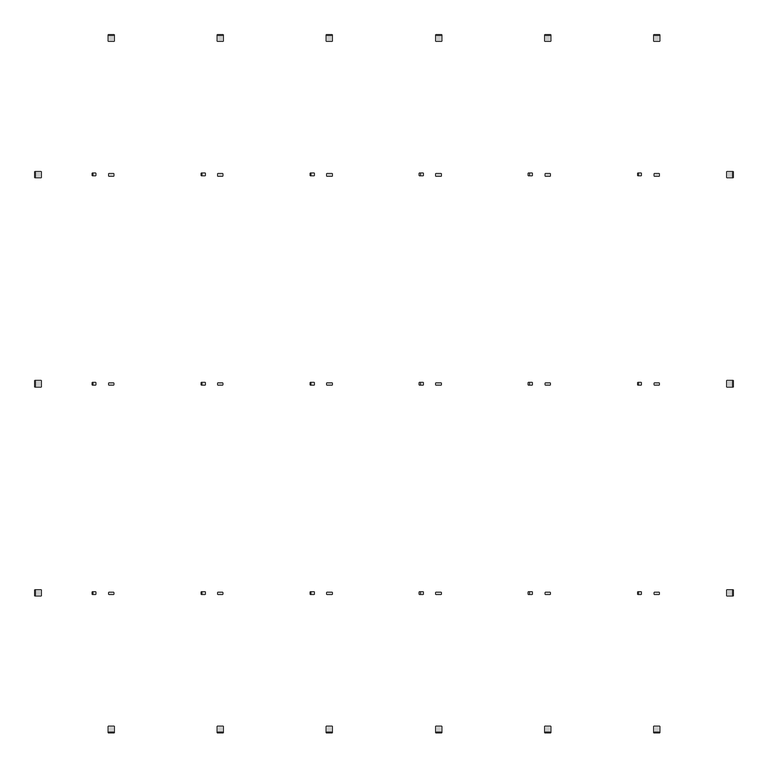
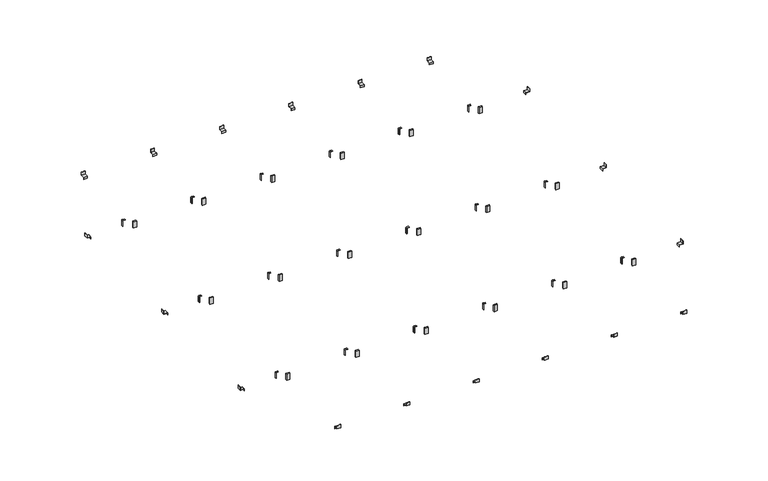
"""IFC4 building model written with IfcOpenShell, lengths in millimetres: proxy geometry, durlum_S1 : durlum_S1_625x625."""

from ifc_helpers import new_model, si_unit, point, frame, frame_2d, origin, place, context, project, spatial, polyline, circle_curve, trimmed, segment, composite_curve, outline, extrude, source, transform, mapped, element, save


def generic_models_e5a4eb21(model_context):
    return source(origin(), model_context, "Body", "SweptSolid", [
        extrude(outline(polyline([(2000.0, 2046.0), (1966.0, 2046.0), (1966.0, 2028.0), (1965.0, 2028.0), (1965.0, 2047.0), (1999.0, 2047.0), (1999.0, 2075.0), (2000.0, 2075.0), (2000.0, 2046.0)])), frame((920.1800527, 0.0, 0.0), z_axis=(1.0, 0.0, 0.0), x_axis=(0.0, 1.0, 0.0)), (0.0, 0.0, 1.0), 34.6398947),
        extrude(outline(polyline([(2000.0, 2046.0), (1966.0, 2046.0), (1966.0, 2028.0), (1965.0, 2028.0), (1965.0, 2047.0), (1999.0, 2047.0), (1999.0, 2075.0), (2000.0, 2075.0), (2000.0, 2046.0)])), frame((295.1800527, 0.0, 0.0), z_axis=(1.0, 0.0, 0.0), x_axis=(0.0, 1.0, 0.0)), (0.0, 0.0, 1.0), 34.6398947),
        extrude(outline(polyline([(-2000.0, 2046.0), (-2000.0, 2075.0), (-1999.0, 2075.0), (-1999.0, 2047.0), (-1965.0, 2047.0), (-1965.0, 2028.0), (-1966.0, 2028.0), (-1966.0, 2046.0), (-2000.0, 2046.0)])), frame((920.1800527, 0.0, 0.0), z_axis=(1.0, 0.0, 0.0), x_axis=(0.0, 1.0, 0.0)), (0.0, 0.0, 1.0), 34.6398947),
        extrude(outline(polyline([(-2000.0, 2046.0), (-2000.0, 2075.0), (-1999.0, 2075.0), (-1999.0, 2047.0), (-1965.0, 2047.0), (-1965.0, 2028.0), (-1966.0, 2028.0), (-1966.0, 2046.0), (-2000.0, 2046.0)])), frame((295.1800527, 0.0, 0.0), z_axis=(1.0, 0.0, 0.0), x_axis=(0.0, 1.0, 0.0)), (0.0, 0.0, 1.0), 34.6398947),
        extrude(outline(polyline([(952.5, 3.6253613), (952.5, -8.4811477), (922.5, -8.4811477), (922.5, 3.6253613), (952.5, 3.6253613)])), frame((0.0, 0.0, 2028.8069112), z_axis=(0.0, 0.0, 1.0), x_axis=(1.0, 0.0, 0.0)), (0.0, 0.0, 1.0), 59.2290353),
        extrude(outline(polyline([(327.5, 3.6253613), (327.5, -8.4811477), (297.5, -8.4811477), (297.5, 3.6253613), (327.5, 3.6253613)])), frame((0.0, 0.0, 2028.8069112), z_axis=(0.0, 0.0, 1.0), x_axis=(1.0, 0.0, 0.0)), (0.0, 0.0, 1.0), 59.2290353),
        extrude(outline(polyline([(-297.5, 3.6253613), (-297.5, -8.4811477), (-327.5, -8.4811477), (-327.5, 3.6253613), (-297.5, 3.6253613)])), frame((0.0, 0.0, 2028.8069112), z_axis=(0.0, 0.0, 1.0), x_axis=(1.0, 0.0, 0.0)), (0.0, 0.0, 1.0), 59.2290353),
        extrude(outline(polyline([(-922.5, 3.6253613), (-922.5, -8.4811477), (-952.5, -8.4811477), (-952.5, 3.6253613), (-922.5, 3.6253613)])), frame((0.0, 0.0, 2028.8069112), z_axis=(0.0, 0.0, 1.0), x_axis=(1.0, 0.0, 0.0)), (0.0, 0.0, 1.0), 59.2290353),
        extrude(outline(polyline([(1577.5, 3.6253613), (1577.5, -8.4811477), (1547.5, -8.4811477), (1547.5, 3.6253613), (1577.5, 3.6253613)])), frame((0.0, 0.0, 2028.8069112), z_axis=(0.0, 0.0, 1.0), x_axis=(1.0, 0.0, 0.0)), (0.0, 0.0, 1.0), 59.2290353),
        extrude(outline(polyline([(-1547.5, 3.6253613), (-1547.5, -8.4811477), (-1577.5, -8.4811477), (-1577.5, 3.6253613), (-1547.5, 3.6253613)])), frame((0.0, 0.0, 2028.8069112), z_axis=(0.0, 0.0, 1.0), x_axis=(1.0, 0.0, 0.0)), (0.0, 0.0, 1.0), 59.2290353),
        extrude(outline(composite_curve([segment(polyline([(2131.0, -1047.5), (2079.0, -1047.5), (2079.0, -1045.5294653), (2131.0321248, -1045.5294653)]), True, "CONTINUOUS"), segment(trimmed(circle_curve(frame_2d((2131.0321248, -1043.5294653)), 2.0), [point((2131.0321248, -1045.5294653))], [point((2133.0321248, -1043.5294653))], True, "CARTESIAN"), True, "CONTINUOUS"), segment(polyline([(2133.0321248, -1043.5294653), (2133.0321248, -1025.3), (2135.0, -1025.3), (2135.0, -1043.5)]), True, "CONTINUOUS"), segment(trimmed(circle_curve(frame_2d((2131.0, -1043.5)), 4.0), [point((2135.0, -1043.5))], [point((2131.0, -1047.5))], False, "CARTESIAN"), True, "CONTINUOUS")], self_intersect=False)), frame((0.0, -7.0, 0.0), z_axis=(0.0, 1.0, 0.0), x_axis=(0.0, 0.0, 1.0)), (0.0, 0.0, 1.0), 14.0),
        extrude(outline(composite_curve([segment(polyline([(2131.0, -422.5), (2079.0, -422.5), (2079.0, -420.5294653), (2131.0321248, -420.5294653)]), True, "CONTINUOUS"), segment(trimmed(circle_curve(frame_2d((2131.0321248, -418.5294653)), 2.0), [point((2131.0321248, -420.5294653))], [point((2133.0321248, -418.5294653))], True, "CARTESIAN"), True, "CONTINUOUS"), segment(polyline([(2133.0321248, -418.5294653), (2133.0321248, -400.3), (2135.0, -400.3), (2135.0, -418.5)]), True, "CONTINUOUS"), segment(trimmed(circle_curve(frame_2d((2131.0, -418.5)), 4.0), [point((2135.0, -418.5))], [point((2131.0, -422.5))], False, "CARTESIAN"), True, "CONTINUOUS")], self_intersect=False)), frame((0.0, -7.0, 0.0), z_axis=(0.0, 1.0, 0.0), x_axis=(0.0, 0.0, 1.0)), (0.0, 0.0, 1.0), 14.0),
        extrude(outline(composite_curve([segment(polyline([(2131.0, 202.5), (2079.0, 202.5), (2079.0, 204.4705347), (2131.0321248, 204.4705347)]), True, "CONTINUOUS"), segment(trimmed(circle_curve(frame_2d((2131.0321248, 206.4705347)), 2.0), [point((2131.0321248, 204.4705347))], [point((2133.0321248, 206.4705347))], True, "CARTESIAN"), True, "CONTINUOUS"), segment(polyline([(2133.0321248, 206.4705347), (2133.0321248, 224.7), (2135.0, 224.7), (2135.0, 206.5)]), True, "CONTINUOUS"), segment(trimmed(circle_curve(frame_2d((2131.0, 206.5)), 4.0), [point((2135.0, 206.5))], [point((2131.0, 202.5))], False, "CARTESIAN"), True, "CONTINUOUS")], self_intersect=False)), frame((0.0, -7.0, 0.0), z_axis=(0.0, 1.0, 0.0), x_axis=(0.0, 0.0, 1.0)), (0.0, 0.0, 1.0), 14.0),
        extrude(outline(composite_curve([segment(polyline([(2131.0, 827.5), (2079.0, 827.5), (2079.0, 829.4705347), (2131.0321248, 829.4705347)]), True, "CONTINUOUS"), segment(trimmed(circle_curve(frame_2d((2131.0321248, 831.4705347)), 2.0), [point((2131.0321248, 829.4705347))], [point((2133.0321248, 831.4705347))], True, "CARTESIAN"), True, "CONTINUOUS"), segment(polyline([(2133.0321248, 831.4705347), (2133.0321248, 849.7), (2135.0, 849.7), (2135.0, 831.5)]), True, "CONTINUOUS"), segment(trimmed(circle_curve(frame_2d((2131.0, 831.5)), 4.0), [point((2135.0, 831.5))], [point((2131.0, 827.5))], False, "CARTESIAN"), True, "CONTINUOUS")], self_intersect=False)), frame((0.0, -7.0, 0.0), z_axis=(0.0, 1.0, 0.0), x_axis=(0.0, 0.0, 1.0)), (0.0, 0.0, 1.0), 14.0),
        extrude(outline(composite_curve([segment(polyline([(2131.0, -1672.5), (2079.0, -1672.5), (2079.0, -1670.5294653), (2131.0321248, -1670.5294653)]), True, "CONTINUOUS"), segment(trimmed(circle_curve(frame_2d((2131.0321248, -1668.5294653)), 2.0), [point((2131.0321248, -1670.5294653))], [point((2133.0321248, -1668.5294653))], True, "CARTESIAN"), True, "CONTINUOUS"), segment(polyline([(2133.0321248, -1668.5294653), (2133.0321248, -1650.3), (2135.0, -1650.3), (2135.0, -1668.5)]), True, "CONTINUOUS"), segment(trimmed(circle_curve(frame_2d((2131.0, -1668.5)), 4.0), [point((2135.0, -1668.5))], [point((2131.0, -1672.5))], False, "CARTESIAN"), True, "CONTINUOUS")], self_intersect=False)), frame((0.0, -7.0, 0.0), z_axis=(0.0, 1.0, 0.0), x_axis=(0.0, 0.0, 1.0)), (0.0, 0.0, 1.0), 14.0),
        extrude(outline(composite_curve([segment(polyline([(2131.0, 1452.5), (2079.0, 1452.5), (2079.0, 1454.4705347), (2131.0321248, 1454.4705347)]), True, "CONTINUOUS"), segment(trimmed(circle_curve(frame_2d((2131.0321248, 1456.4705347)), 2.0), [point((2131.0321248, 1454.4705347))], [point((2133.0321248, 1456.4705347))], True, "CARTESIAN"), True, "CONTINUOUS"), segment(polyline([(2133.0321248, 1456.4705347), (2133.0321248, 1474.7), (2135.0, 1474.7), (2135.0, 1456.5)]), True, "CONTINUOUS"), segment(trimmed(circle_curve(frame_2d((2131.0, 1456.5)), 4.0), [point((2135.0, 1456.5))], [point((2131.0, 1452.5))], False, "CARTESIAN"), True, "CONTINUOUS")], self_intersect=False)), frame((0.0, -7.0, 0.0), z_axis=(0.0, 1.0, 0.0), x_axis=(0.0, 0.0, 1.0)), (0.0, 0.0, 1.0), 14.0),
        extrude(outline(polyline([(2087.0, 2000.0), (2116.0, 2000.0), (2116.0, 1999.0), (2088.0, 1999.0), (2088.0, 1965.0), (2069.0, 1965.0), (2069.0, 1966.0), (2087.0, 1966.0), (2087.0, 2000.0)])), frame((0.0, -17.3199473, 0.0), z_axis=(0.0, 1.0, 0.0), x_axis=(0.0, 0.0, 1.0)), (0.0, 0.0, 1.0), 34.6398947),
        extrude(outline(polyline([(2087.0, -2000.0), (2087.0, -1966.0), (2069.0, -1966.0), (2069.0, -1965.0), (2088.0, -1965.0), (2088.0, -1999.0), (2116.0, -1999.0), (2116.0, -2000.0), (2087.0, -2000.0)])), frame((0.0, -17.3199473, 0.0), z_axis=(0.0, 1.0, 0.0), x_axis=(0.0, 0.0, 1.0)), (0.0, 0.0, 1.0), 34.6398947),
        extrude(outline(polyline([(-2000.0, 2046.0), (-2000.0, 2075.0), (-1999.0, 2075.0), (-1999.0, 2047.0), (-1965.0, 2047.0), (-1965.0, 2028.0), (-1966.0, 2028.0), (-1966.0, 2046.0), (-2000.0, 2046.0)])), frame((-329.8199473, 0.0, 0.0), z_axis=(1.0, 0.0, 0.0), x_axis=(0.0, 1.0, 0.0)), (0.0, 0.0, 1.0), 34.6398947),
        extrude(outline(polyline([(-2000.0, 2046.0), (-2000.0, 2075.0), (-1999.0, 2075.0), (-1999.0, 2047.0), (-1965.0, 2047.0), (-1965.0, 2028.0), (-1966.0, 2028.0), (-1966.0, 2046.0), (-2000.0, 2046.0)])), frame((-954.8199473, 0.0, 0.0), z_axis=(1.0, 0.0, 0.0), x_axis=(0.0, 1.0, 0.0)), (0.0, 0.0, 1.0), 34.6398947),
        extrude(outline(polyline([(2000.0, 2046.0), (1966.0, 2046.0), (1966.0, 2028.0), (1965.0, 2028.0), (1965.0, 2047.0), (1999.0, 2047.0), (1999.0, 2075.0), (2000.0, 2075.0), (2000.0, 2046.0)])), frame((-329.8199473, 0.0, 0.0), z_axis=(1.0, 0.0, 0.0), x_axis=(0.0, 1.0, 0.0)), (0.0, 0.0, 1.0), 34.6398947),
        extrude(outline(polyline([(2000.0, 2046.0), (1966.0, 2046.0), (1966.0, 2028.0), (1965.0, 2028.0), (1965.0, 2047.0), (1999.0, 2047.0), (1999.0, 2075.0), (2000.0, 2075.0), (2000.0, 2046.0)])), frame((-954.8199473, 0.0, 0.0), z_axis=(1.0, 0.0, 0.0), x_axis=(0.0, 1.0, 0.0)), (0.0, 0.0, 1.0), 34.6398947),
        extrude(outline(polyline([(2000.0, 2046.0), (1966.0, 2046.0), (1966.0, 2028.0), (1965.0, 2028.0), (1965.0, 2047.0), (1999.0, 2047.0), (1999.0, 2075.0), (2000.0, 2075.0), (2000.0, 2046.0)])), frame((1545.1800527, 0.0, 0.0), z_axis=(1.0, 0.0, 0.0), x_axis=(0.0, 1.0, 0.0)), (0.0, 0.0, 1.0), 34.6398947),
        extrude(outline(polyline([(-2000.0, 2046.0), (-2000.0, 2075.0), (-1999.0, 2075.0), (-1999.0, 2047.0), (-1965.0, 2047.0), (-1965.0, 2028.0), (-1966.0, 2028.0), (-1966.0, 2046.0), (-2000.0, 2046.0)])), frame((1545.1800527, 0.0, 0.0), z_axis=(1.0, 0.0, 0.0), x_axis=(0.0, 1.0, 0.0)), (0.0, 0.0, 1.0), 34.6398947),
        extrude(outline(polyline([(-2000.0, 2046.0), (-2000.0, 2075.0), (-1999.0, 2075.0), (-1999.0, 2047.0), (-1965.0, 2047.0), (-1965.0, 2028.0), (-1966.0, 2028.0), (-1966.0, 2046.0), (-2000.0, 2046.0)])), frame((-1579.8199473, 0.0, 0.0), z_axis=(1.0, 0.0, 0.0), x_axis=(0.0, 1.0, 0.0)), (0.0, 0.0, 1.0), 34.6398947),
        extrude(outline(polyline([(2000.0, 2046.0), (1966.0, 2046.0), (1966.0, 2028.0), (1965.0, 2028.0), (1965.0, 2047.0), (1999.0, 2047.0), (1999.0, 2075.0), (2000.0, 2075.0), (2000.0, 2046.0)])), frame((-1579.8199473, 0.0, 0.0), z_axis=(1.0, 0.0, 0.0), x_axis=(0.0, 1.0, 0.0)), (0.0, 0.0, 1.0), 34.6398947),
        extrude(outline(polyline([(952.5, -1196.3746387), (952.5, -1208.4811477), (922.5, -1208.4811477), (922.5, -1196.3746387), (952.5, -1196.3746387)])), frame((0.0, 0.0, 2028.8069112), z_axis=(0.0, 0.0, 1.0), x_axis=(1.0, 0.0, 0.0)), (0.0, 0.0, 1.0), 59.2290353),
        extrude(outline(polyline([(327.5, -1196.3746387), (327.5, -1208.4811477), (297.5, -1208.4811477), (297.5, -1196.3746387), (327.5, -1196.3746387)])), frame((0.0, 0.0, 2028.8069112), z_axis=(0.0, 0.0, 1.0), x_axis=(1.0, 0.0, 0.0)), (0.0, 0.0, 1.0), 59.2290353),
        extrude(outline(polyline([(-297.5, -1196.3746387), (-297.5, -1208.4811477), (-327.5, -1208.4811477), (-327.5, -1196.3746387), (-297.5, -1196.3746387)])), frame((0.0, 0.0, 2028.8069112), z_axis=(0.0, 0.0, 1.0), x_axis=(1.0, 0.0, 0.0)), (0.0, 0.0, 1.0), 59.2290353),
        extrude(outline(polyline([(-922.5, -1196.3746387), (-922.5, -1208.4811477), (-952.5, -1208.4811477), (-952.5, -1196.3746387), (-922.5, -1196.3746387)])), frame((0.0, 0.0, 2028.8069112), z_axis=(0.0, 0.0, 1.0), x_axis=(1.0, 0.0, 0.0)), (0.0, 0.0, 1.0), 59.2290353),
        extrude(outline(polyline([(1577.5, -1196.3746387), (1577.5, -1208.4811477), (1547.5, -1208.4811477), (1547.5, -1196.3746387), (1577.5, -1196.3746387)])), frame((0.0, 0.0, 2028.8069112), z_axis=(0.0, 0.0, 1.0), x_axis=(1.0, 0.0, 0.0)), (0.0, 0.0, 1.0), 59.2290353),
        extrude(outline(polyline([(-1547.5, -1196.3746387), (-1547.5, -1208.4811477), (-1577.5, -1208.4811477), (-1577.5, -1196.3746387), (-1547.5, -1196.3746387)])), frame((0.0, 0.0, 2028.8069112), z_axis=(0.0, 0.0, 1.0), x_axis=(1.0, 0.0, 0.0)), (0.0, 0.0, 1.0), 59.2290353),
        extrude(outline(composite_curve([segment(polyline([(2131.0, -1047.5), (2079.0, -1047.5), (2079.0, -1045.5294653), (2131.0321248, -1045.5294653)]), True, "CONTINUOUS"), segment(trimmed(circle_curve(frame_2d((2131.0321248, -1043.5294653)), 2.0), [point((2131.0321248, -1045.5294653))], [point((2133.0321248, -1043.5294653))], True, "CARTESIAN"), True, "CONTINUOUS"), segment(polyline([(2133.0321248, -1043.5294653), (2133.0321248, -1025.3), (2135.0, -1025.3), (2135.0, -1043.5)]), True, "CONTINUOUS"), segment(trimmed(circle_curve(frame_2d((2131.0, -1043.5)), 4.0), [point((2135.0, -1043.5))], [point((2131.0, -1047.5))], False, "CARTESIAN"), True, "CONTINUOUS")], self_intersect=False)), frame((0.0, -1207.0, 0.0), z_axis=(0.0, 1.0, 0.0), x_axis=(0.0, 0.0, 1.0)), (0.0, 0.0, 1.0), 14.0),
        extrude(outline(composite_curve([segment(polyline([(2131.0, -422.5), (2079.0, -422.5), (2079.0, -420.5294653), (2131.0321248, -420.5294653)]), True, "CONTINUOUS"), segment(trimmed(circle_curve(frame_2d((2131.0321248, -418.5294653)), 2.0), [point((2131.0321248, -420.5294653))], [point((2133.0321248, -418.5294653))], True, "CARTESIAN"), True, "CONTINUOUS"), segment(polyline([(2133.0321248, -418.5294653), (2133.0321248, -400.3), (2135.0, -400.3), (2135.0, -418.5)]), True, "CONTINUOUS"), segment(trimmed(circle_curve(frame_2d((2131.0, -418.5)), 4.0), [point((2135.0, -418.5))], [point((2131.0, -422.5))], False, "CARTESIAN"), True, "CONTINUOUS")], self_intersect=False)), frame((0.0, -1207.0, 0.0), z_axis=(0.0, 1.0, 0.0), x_axis=(0.0, 0.0, 1.0)), (0.0, 0.0, 1.0), 14.0),
        extrude(outline(composite_curve([segment(polyline([(2131.0, 202.5), (2079.0, 202.5), (2079.0, 204.4705347), (2131.0321248, 204.4705347)]), True, "CONTINUOUS"), segment(trimmed(circle_curve(frame_2d((2131.0321248, 206.4705347)), 2.0), [point((2131.0321248, 204.4705347))], [point((2133.0321248, 206.4705347))], True, "CARTESIAN"), True, "CONTINUOUS"), segment(polyline([(2133.0321248, 206.4705347), (2133.0321248, 224.7), (2135.0, 224.7), (2135.0, 206.5)]), True, "CONTINUOUS"), segment(trimmed(circle_curve(frame_2d((2131.0, 206.5)), 4.0), [point((2135.0, 206.5))], [point((2131.0, 202.5))], False, "CARTESIAN"), True, "CONTINUOUS")], self_intersect=False)), frame((0.0, -1207.0, 0.0), z_axis=(0.0, 1.0, 0.0), x_axis=(0.0, 0.0, 1.0)), (0.0, 0.0, 1.0), 14.0),
        extrude(outline(composite_curve([segment(polyline([(2131.0, 827.5), (2079.0, 827.5), (2079.0, 829.4705347), (2131.0321248, 829.4705347)]), True, "CONTINUOUS"), segment(trimmed(circle_curve(frame_2d((2131.0321248, 831.4705347)), 2.0), [point((2131.0321248, 829.4705347))], [point((2133.0321248, 831.4705347))], True, "CARTESIAN"), True, "CONTINUOUS"), segment(polyline([(2133.0321248, 831.4705347), (2133.0321248, 849.7), (2135.0, 849.7), (2135.0, 831.5)]), True, "CONTINUOUS"), segment(trimmed(circle_curve(frame_2d((2131.0, 831.5)), 4.0), [point((2135.0, 831.5))], [point((2131.0, 827.5))], False, "CARTESIAN"), True, "CONTINUOUS")], self_intersect=False)), frame((0.0, -1207.0, 0.0), z_axis=(0.0, 1.0, 0.0), x_axis=(0.0, 0.0, 1.0)), (0.0, 0.0, 1.0), 14.0),
        extrude(outline(composite_curve([segment(polyline([(2131.0, -1672.5), (2079.0, -1672.5), (2079.0, -1670.5294653), (2131.0321248, -1670.5294653)]), True, "CONTINUOUS"), segment(trimmed(circle_curve(frame_2d((2131.0321248, -1668.5294653)), 2.0), [point((2131.0321248, -1670.5294653))], [point((2133.0321248, -1668.5294653))], True, "CARTESIAN"), True, "CONTINUOUS"), segment(polyline([(2133.0321248, -1668.5294653), (2133.0321248, -1650.3), (2135.0, -1650.3), (2135.0, -1668.5)]), True, "CONTINUOUS"), segment(trimmed(circle_curve(frame_2d((2131.0, -1668.5)), 4.0), [point((2135.0, -1668.5))], [point((2131.0, -1672.5))], False, "CARTESIAN"), True, "CONTINUOUS")], self_intersect=False)), frame((0.0, -1207.0, 0.0), z_axis=(0.0, 1.0, 0.0), x_axis=(0.0, 0.0, 1.0)), (0.0, 0.0, 1.0), 14.0),
        extrude(outline(composite_curve([segment(polyline([(2131.0, 1452.5), (2079.0, 1452.5), (2079.0, 1454.4705347), (2131.0321248, 1454.4705347)]), True, "CONTINUOUS"), segment(trimmed(circle_curve(frame_2d((2131.0321248, 1456.4705347)), 2.0), [point((2131.0321248, 1454.4705347))], [point((2133.0321248, 1456.4705347))], True, "CARTESIAN"), True, "CONTINUOUS"), segment(polyline([(2133.0321248, 1456.4705347), (2133.0321248, 1474.7), (2135.0, 1474.7), (2135.0, 1456.5)]), True, "CONTINUOUS"), segment(trimmed(circle_curve(frame_2d((2131.0, 1456.5)), 4.0), [point((2135.0, 1456.5))], [point((2131.0, 1452.5))], False, "CARTESIAN"), True, "CONTINUOUS")], self_intersect=False)), frame((0.0, -1207.0, 0.0), z_axis=(0.0, 1.0, 0.0), x_axis=(0.0, 0.0, 1.0)), (0.0, 0.0, 1.0), 14.0),
        extrude(outline(polyline([(2087.0, 2000.0), (2116.0, 2000.0), (2116.0, 1999.0), (2088.0, 1999.0), (2088.0, 1965.0), (2069.0, 1965.0), (2069.0, 1966.0), (2087.0, 1966.0), (2087.0, 2000.0)])), frame((0.0, -1217.3199473, 0.0), z_axis=(0.0, 1.0, 0.0), x_axis=(0.0, 0.0, 1.0)), (0.0, 0.0, 1.0), 34.6398947),
        extrude(outline(polyline([(2087.0, -2000.0), (2087.0, -1966.0), (2069.0, -1966.0), (2069.0, -1965.0), (2088.0, -1965.0), (2088.0, -1999.0), (2116.0, -1999.0), (2116.0, -2000.0), (2087.0, -2000.0)])), frame((0.0, -1217.3199473, 0.0), z_axis=(0.0, 1.0, 0.0), x_axis=(0.0, 0.0, 1.0)), (0.0, 0.0, 1.0), 34.6398947),
        extrude(outline(polyline([(952.5, 1203.6253613), (952.5, 1191.5188523), (922.5, 1191.5188523), (922.5, 1203.6253613), (952.5, 1203.6253613)])), frame((0.0, 0.0, 2028.8069112), z_axis=(0.0, 0.0, 1.0), x_axis=(1.0, 0.0, 0.0)), (0.0, 0.0, 1.0), 59.2290353),
        extrude(outline(polyline([(327.5, 1203.6253613), (327.5, 1191.5188523), (297.5, 1191.5188523), (297.5, 1203.6253613), (327.5, 1203.6253613)])), frame((0.0, 0.0, 2028.8069112), z_axis=(0.0, 0.0, 1.0), x_axis=(1.0, 0.0, 0.0)), (0.0, 0.0, 1.0), 59.2290353),
        extrude(outline(polyline([(-297.5, 1203.6253613), (-297.5, 1191.5188523), (-327.5, 1191.5188523), (-327.5, 1203.6253613), (-297.5, 1203.6253613)])), frame((0.0, 0.0, 2028.8069112), z_axis=(0.0, 0.0, 1.0), x_axis=(1.0, 0.0, 0.0)), (0.0, 0.0, 1.0), 59.2290353),
        extrude(outline(polyline([(-922.5, 1203.6253613), (-922.5, 1191.5188523), (-952.5, 1191.5188523), (-952.5, 1203.6253613), (-922.5, 1203.6253613)])), frame((0.0, 0.0, 2028.8069112), z_axis=(0.0, 0.0, 1.0), x_axis=(1.0, 0.0, 0.0)), (0.0, 0.0, 1.0), 59.2290353),
        extrude(outline(polyline([(1577.5, 1203.6253613), (1577.5, 1191.5188523), (1547.5, 1191.5188523), (1547.5, 1203.6253613), (1577.5, 1203.6253613)])), frame((0.0, 0.0, 2028.8069112), z_axis=(0.0, 0.0, 1.0), x_axis=(1.0, 0.0, 0.0)), (0.0, 0.0, 1.0), 59.2290353),
        extrude(outline(polyline([(-1547.5, 1203.6253613), (-1547.5, 1191.5188523), (-1577.5, 1191.5188523), (-1577.5, 1203.6253613), (-1547.5, 1203.6253613)])), frame((0.0, 0.0, 2028.8069112), z_axis=(0.0, 0.0, 1.0), x_axis=(1.0, 0.0, 0.0)), (0.0, 0.0, 1.0), 59.2290353),
        extrude(outline(composite_curve([segment(polyline([(2131.0, -1047.5), (2079.0, -1047.5), (2079.0, -1045.5294653), (2131.0321248, -1045.5294653)]), True, "CONTINUOUS"), segment(trimmed(circle_curve(frame_2d((2131.0321248, -1043.5294653)), 2.0), [point((2131.0321248, -1045.5294653))], [point((2133.0321248, -1043.5294653))], True, "CARTESIAN"), True, "CONTINUOUS"), segment(polyline([(2133.0321248, -1043.5294653), (2133.0321248, -1025.3), (2135.0, -1025.3), (2135.0, -1043.5)]), True, "CONTINUOUS"), segment(trimmed(circle_curve(frame_2d((2131.0, -1043.5)), 4.0), [point((2135.0, -1043.5))], [point((2131.0, -1047.5))], False, "CARTESIAN"), True, "CONTINUOUS")], self_intersect=False)), frame((0.0, 1193.0, 0.0), z_axis=(0.0, 1.0, 0.0), x_axis=(0.0, 0.0, 1.0)), (0.0, 0.0, 1.0), 14.0),
        extrude(outline(composite_curve([segment(polyline([(2131.0, -422.5), (2079.0, -422.5), (2079.0, -420.5294653), (2131.0321248, -420.5294653)]), True, "CONTINUOUS"), segment(trimmed(circle_curve(frame_2d((2131.0321248, -418.5294653)), 2.0), [point((2131.0321248, -420.5294653))], [point((2133.0321248, -418.5294653))], True, "CARTESIAN"), True, "CONTINUOUS"), segment(polyline([(2133.0321248, -418.5294653), (2133.0321248, -400.3), (2135.0, -400.3), (2135.0, -418.5)]), True, "CONTINUOUS"), segment(trimmed(circle_curve(frame_2d((2131.0, -418.5)), 4.0), [point((2135.0, -418.5))], [point((2131.0, -422.5))], False, "CARTESIAN"), True, "CONTINUOUS")], self_intersect=False)), frame((0.0, 1193.0, 0.0), z_axis=(0.0, 1.0, 0.0), x_axis=(0.0, 0.0, 1.0)), (0.0, 0.0, 1.0), 14.0),
        extrude(outline(composite_curve([segment(polyline([(2131.0, 202.5), (2079.0, 202.5), (2079.0, 204.4705347), (2131.0321248, 204.4705347)]), True, "CONTINUOUS"), segment(trimmed(circle_curve(frame_2d((2131.0321248, 206.4705347)), 2.0), [point((2131.0321248, 204.4705347))], [point((2133.0321248, 206.4705347))], True, "CARTESIAN"), True, "CONTINUOUS"), segment(polyline([(2133.0321248, 206.4705347), (2133.0321248, 224.7), (2135.0, 224.7), (2135.0, 206.5)]), True, "CONTINUOUS"), segment(trimmed(circle_curve(frame_2d((2131.0, 206.5)), 4.0), [point((2135.0, 206.5))], [point((2131.0, 202.5))], False, "CARTESIAN"), True, "CONTINUOUS")], self_intersect=False)), frame((0.0, 1193.0, 0.0), z_axis=(0.0, 1.0, 0.0), x_axis=(0.0, 0.0, 1.0)), (0.0, 0.0, 1.0), 14.0),
        extrude(outline(composite_curve([segment(polyline([(2131.0, 827.5), (2079.0, 827.5), (2079.0, 829.4705347), (2131.0321248, 829.4705347)]), True, "CONTINUOUS"), segment(trimmed(circle_curve(frame_2d((2131.0321248, 831.4705347)), 2.0), [point((2131.0321248, 829.4705347))], [point((2133.0321248, 831.4705347))], True, "CARTESIAN"), True, "CONTINUOUS"), segment(polyline([(2133.0321248, 831.4705347), (2133.0321248, 849.7), (2135.0, 849.7), (2135.0, 831.5)]), True, "CONTINUOUS"), segment(trimmed(circle_curve(frame_2d((2131.0, 831.5)), 4.0), [point((2135.0, 831.5))], [point((2131.0, 827.5))], False, "CARTESIAN"), True, "CONTINUOUS")], self_intersect=False)), frame((0.0, 1193.0, 0.0), z_axis=(0.0, 1.0, 0.0), x_axis=(0.0, 0.0, 1.0)), (0.0, 0.0, 1.0), 14.0),
        extrude(outline(composite_curve([segment(polyline([(2131.0, -1672.5), (2079.0, -1672.5), (2079.0, -1670.5294653), (2131.0321248, -1670.5294653)]), True, "CONTINUOUS"), segment(trimmed(circle_curve(frame_2d((2131.0321248, -1668.5294653)), 2.0), [point((2131.0321248, -1670.5294653))], [point((2133.0321248, -1668.5294653))], True, "CARTESIAN"), True, "CONTINUOUS"), segment(polyline([(2133.0321248, -1668.5294653), (2133.0321248, -1650.3), (2135.0, -1650.3), (2135.0, -1668.5)]), True, "CONTINUOUS"), segment(trimmed(circle_curve(frame_2d((2131.0, -1668.5)), 4.0), [point((2135.0, -1668.5))], [point((2131.0, -1672.5))], False, "CARTESIAN"), True, "CONTINUOUS")], self_intersect=False)), frame((0.0, 1193.0, 0.0), z_axis=(0.0, 1.0, 0.0), x_axis=(0.0, 0.0, 1.0)), (0.0, 0.0, 1.0), 14.0),
        extrude(outline(composite_curve([segment(polyline([(2131.0, 1452.5), (2079.0, 1452.5), (2079.0, 1454.4705347), (2131.0321248, 1454.4705347)]), True, "CONTINUOUS"), segment(trimmed(circle_curve(frame_2d((2131.0321248, 1456.4705347)), 2.0), [point((2131.0321248, 1454.4705347))], [point((2133.0321248, 1456.4705347))], True, "CARTESIAN"), True, "CONTINUOUS"), segment(polyline([(2133.0321248, 1456.4705347), (2133.0321248, 1474.7), (2135.0, 1474.7), (2135.0, 1456.5)]), True, "CONTINUOUS"), segment(trimmed(circle_curve(frame_2d((2131.0, 1456.5)), 4.0), [point((2135.0, 1456.5))], [point((2131.0, 1452.5))], False, "CARTESIAN"), True, "CONTINUOUS")], self_intersect=False)), frame((0.0, 1193.0, 0.0), z_axis=(0.0, 1.0, 0.0), x_axis=(0.0, 0.0, 1.0)), (0.0, 0.0, 1.0), 14.0),
        extrude(outline(polyline([(2087.0, 2000.0), (2116.0, 2000.0), (2116.0, 1999.0), (2088.0, 1999.0), (2088.0, 1965.0), (2069.0, 1965.0), (2069.0, 1966.0), (2087.0, 1966.0), (2087.0, 2000.0)])), frame((0.0, 1182.6800527, 0.0), z_axis=(0.0, 1.0, 0.0), x_axis=(0.0, 0.0, 1.0)), (0.0, 0.0, 1.0), 34.6398947),
        extrude(outline(polyline([(2087.0, -2000.0), (2087.0, -1966.0), (2069.0, -1966.0), (2069.0, -1965.0), (2088.0, -1965.0), (2088.0, -1999.0), (2116.0, -1999.0), (2116.0, -2000.0), (2087.0, -2000.0)])), frame((0.0, 1182.6800527, 0.0), z_axis=(0.0, 1.0, 0.0), x_axis=(0.0, 0.0, 1.0)), (0.0, 0.0, 1.0), 34.6398947),
    ])


if __name__ == "__main__":
    model = new_model("IFC4")
    model_context = context("Model", 3, world=origin())
    ifc_project = project(units=[si_unit("LENGTHUNIT", "METRE", prefix="MILLI")], contexts=[model_context])
    site = spatial("IfcSite", under=ifc_project)
    building = spatial("IfcBuilding", under=site)
    placement = place(None, origin())
    generic_models_shape = generic_models_e5a4eb21(model_context)
    element("IfcBuildingElementProxy", 1, Name="durlum_S1 : durlum_S1_625x625", ObjectType="durlum_S1 : durlum_S1_625x625", at=placement, inside=building, context=model_context, shape_type="MappedRepresentation", body=[
        mapped(generic_models_shape, transform((0.0, 0.0, 0.0), x_axis=(1.0, 0.0, 0.0), y_axis=(0.0, 1.0, 0.0), z_axis=(0.0, 0.0, 1.0))),
    ])
    save(model, "model.ifc")
